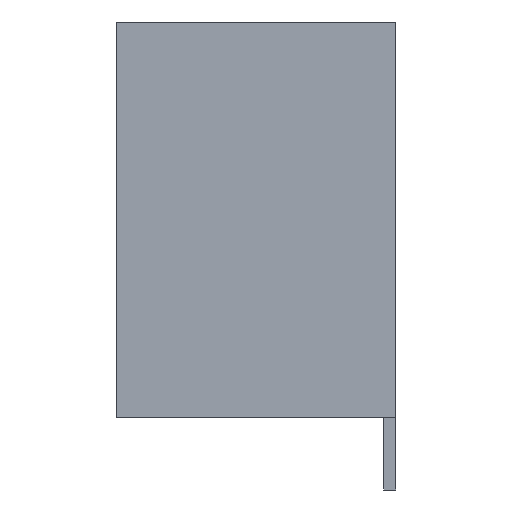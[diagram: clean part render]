
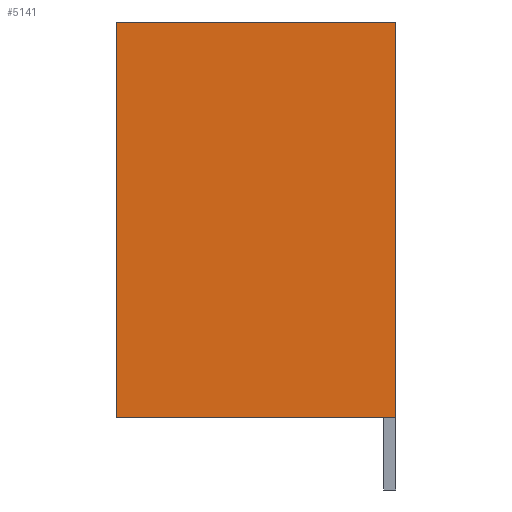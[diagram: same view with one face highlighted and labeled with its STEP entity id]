
A CAD part, left-side view. The second image highlights one B-rep face of the part: STEP entity #5141.
In plain terms, the highlighted planar face has unit normal (-1, 0, 0).
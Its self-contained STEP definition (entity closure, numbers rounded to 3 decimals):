
#790 = CARTESIAN_POINT ( 'NONE',  ( -15.63, 0., -6.5 ) ) ;
#806 = CARTESIAN_POINT ( 'NONE',  ( -15.63, 0., 0. ) ) ;
#811 = VECTOR ( 'NONE', #820, 1000. ) ;
#820 = DIRECTION ( 'NONE',  ( 0., 0., 1. ) ) ;
#821 = CARTESIAN_POINT ( 'NONE',  ( -15.63, 0., -6.5 ) ) ;
#822 = LINE ( 'NONE', #821, #811 ) ;
#2059 = PLANE ( 'NONE',  #2087 ) ;
#2060 = FACE_OUTER_BOUND ( 'NONE', #5143, .T. ) ;
#2061 = DIRECTION ( 'NONE',  ( 0., 0., 1. ) ) ;
#2062 = VECTOR ( 'NONE', #2061, 1000. ) ;
#2063 = CARTESIAN_POINT ( 'NONE',  ( -15.63, 4.6, -6.5 ) ) ;
#2064 = LINE ( 'NONE', #2063, #2062 ) ;
#2084 = DIRECTION ( 'NONE',  ( 0., 0., 1. ) ) ;
#2085 = DIRECTION ( 'NONE',  ( -1., 0., 0. ) ) ;
#2086 = CARTESIAN_POINT ( 'NONE',  ( -15.63, 0., -6.5 ) ) ;
#2087 = AXIS2_PLACEMENT_3D ( 'NONE', #2086, #2085, #2084 ) ;
#4312 = VERTEX_POINT ( 'NONE', #790 ) ;
#4327 = EDGE_CURVE ( 'NONE', #4312, #4329, #822, .T. ) ;
#4329 = VERTEX_POINT ( 'NONE', #806 ) ;
#5135 = ORIENTED_EDGE ( 'NONE', *, *, #13418, .F. ) ;
#5136 = ORIENTED_EDGE ( 'NONE', *, *, #5138, .F. ) ;
#5138 = EDGE_CURVE ( 'NONE', #13531, #13422, #2064, .T. ) ;
#5139 = ORIENTED_EDGE ( 'NONE', *, *, #13528, .T. ) ;
#5141 = ADVANCED_FACE ( 'NONE', ( #2060 ), #2059, .T. ) ;
#5143 = EDGE_LOOP ( 'NONE', ( #5135, #5136, #5139, #5247 ) ) ;
#5247 = ORIENTED_EDGE ( 'NONE', *, *, #4327, .T. ) ;
#6512 = CARTESIAN_POINT ( 'NONE',  ( -15.63, 4.6, 0. ) ) ;
#6514 = DIRECTION ( 'NONE',  ( 0., -1., 0. ) ) ;
#6515 = VECTOR ( 'NONE', #6514, 1000. ) ;
#6516 = CARTESIAN_POINT ( 'NONE',  ( -15.63, 0., 0. ) ) ;
#6517 = LINE ( 'NONE', #6516, #6515 ) ;
#6613 = CARTESIAN_POINT ( 'NONE',  ( -15.63, 4.6, -6.5 ) ) ;
#6614 = DIRECTION ( 'NONE',  ( 0., -1., 0. ) ) ;
#6615 = VECTOR ( 'NONE', #6614, 1000. ) ;
#6616 = CARTESIAN_POINT ( 'NONE',  ( -15.63, 0., -6.5 ) ) ;
#6617 = LINE ( 'NONE', #6616, #6615 ) ;
#13418 = EDGE_CURVE ( 'NONE', #13422, #4329, #6517, .T. ) ;
#13422 = VERTEX_POINT ( 'NONE', #6512 ) ;
#13528 = EDGE_CURVE ( 'NONE', #13531, #4312, #6617, .T. ) ;
#13531 = VERTEX_POINT ( 'NONE', #6613 ) ;
